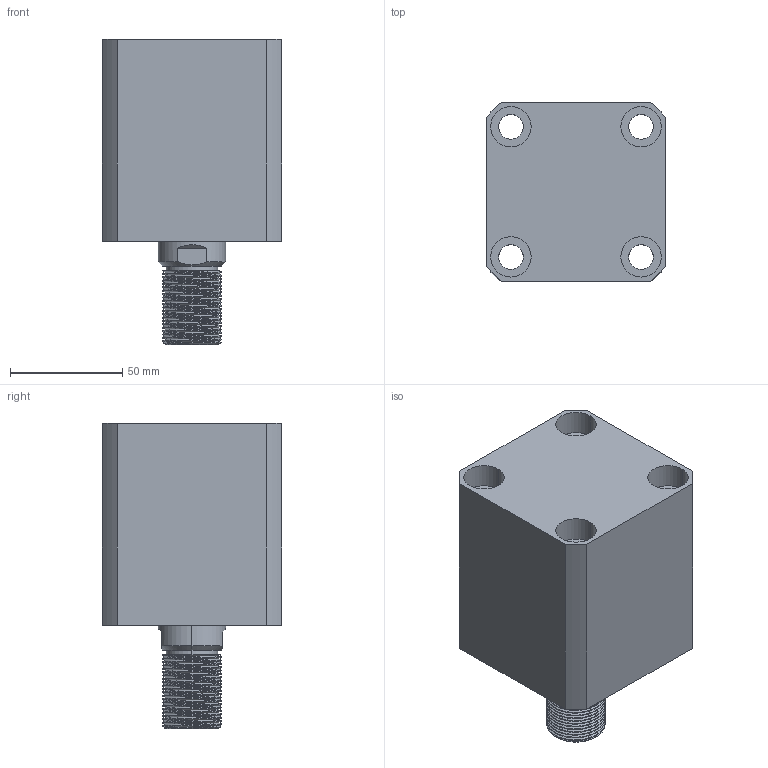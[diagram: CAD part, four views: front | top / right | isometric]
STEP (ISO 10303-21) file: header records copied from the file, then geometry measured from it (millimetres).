
FILE_DESCRIPTION (( 'STEP AP203' ), '1' );
FILE_NAME ('CHTB-SD50-30W.STEP', '2018-05-18T12:15:40', ( '' ), ( '' ), 'SwSTEP 2.0', 'SolidWorks 2015', '' );
FILE_SCHEMA (( 'CONFIG_CONTROL_DESIGN' ));
Length unit declared in the file: millimetre
Products named in the file (4): 掛极SD50-30W; CHTM-SD50QG; CHTB-SD50-30W; 活塞杆SD50-30W
Assembly tree (3 placements, depth 2):
  CHTB-SD50-30W
    掛极SD50-30W
    活塞杆SD50-30W
    CHTM-SD50QG
Bounding box: 80 x 80 x 136 mm (x, y, z)
Volume: 500143.4 mm3; surface area: 102493 mm2
Topology: 3 solids, 3 shells, 236 faces, 627 edges, 419 vertices
Faces by surface type: cylinder 144, plane 41, cone 19, bspline 16, torus 16
Entity records: 14613 total; most frequent: CARTESIAN_POINT 8784, ORIENTED_EDGE 1246, DIRECTION 1029, EDGE_CURVE 623, AXIS2_PLACEMENT_3D 422, VERTEX_POINT 419, EDGE_LOOP 276, FACE_OUTER_BOUND 236
